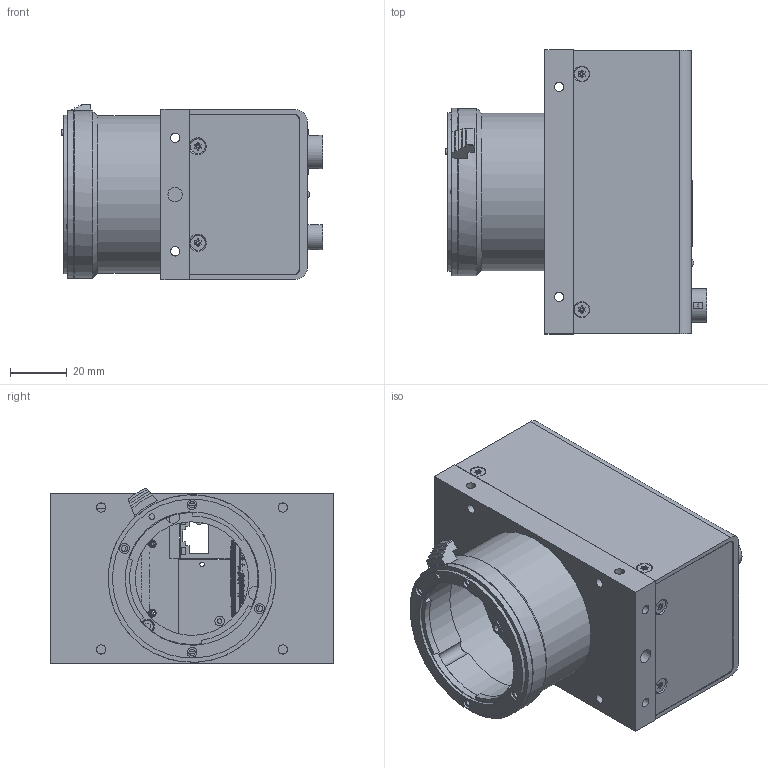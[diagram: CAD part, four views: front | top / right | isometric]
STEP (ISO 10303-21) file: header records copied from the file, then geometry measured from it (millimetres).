
FILE_DESCRIPTION (( 'STEP AP203' ), '1' );
FILE_NAME ('C7-5018-00-45／RCDL4K8GEAssy.STEP', '2020-03-30T00:51:28', ( '' ), ( '' ), 'SwSTEP 2.0', 'SolidWorks 2016', '' );
FILE_SCHEMA (( 'CONFIG_CONTROL_DESIGN' ));
Products named in the file (1): C7-5018-00-45／RCDL4K8GEAssy
Bounding box: 92.25 x 100 x 61.8 mm (x, y, z)
Surface area: 60523.7 mm2 (no closed solid volume)
Topology: 0 solids, 1120 shells, 2218 faces, 16030 edges, 14841 vertices
Faces by surface type: plane 1868, cylinder 260, bspline 59, cone 30, sphere 1
Full cylindrical faces by diameter (mm): 0.4 x12, 0.45 x1, 0.5 x6, 0.8 x2, 0.89 x1, 0.95 x1, 1 x13, 1.6 x2, 2 x1, 2.2 x4, 2.288 x1, 2.6 x1, 2.8 x1, 3.3 x12, 3.5 x5, 4.5 x1, 5 x1, 5.105 x1, 7.7 x1, 8.85 x1, 11 x1, 11.2 x1, 11.9 x1, 14 x1, 14.2 x1, 47 x1, 51.5 x1, 55.5 x1, 56 x1, 59 x2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
Entity records: 193445 total; most frequent: CARTESIAN_POINT 85701, ORIENTED_EDGE 17643, DIRECTION 17562, EDGE_CURVE 15917, VERTEX_POINT 14826, LINE 11134, VECTOR 11134, B_SPLINE_CURVE_WITH_KNOTS 3726
